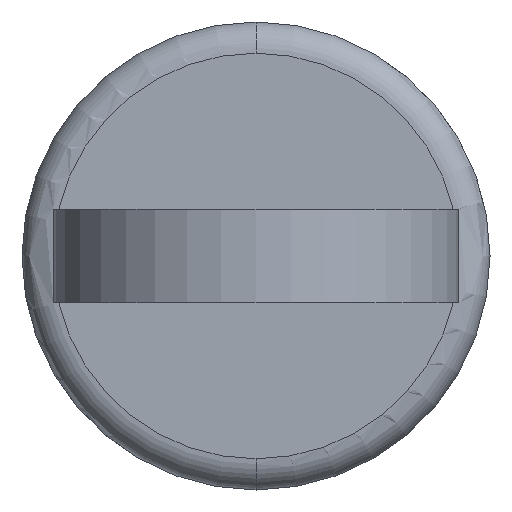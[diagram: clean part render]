
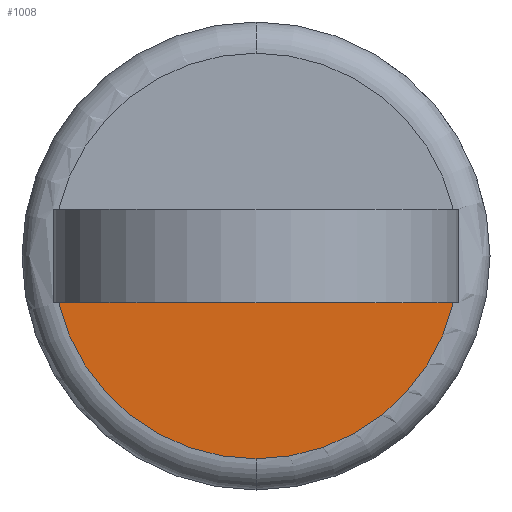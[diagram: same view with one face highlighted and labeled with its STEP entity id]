
A CAD part, front view. The second image highlights one B-rep face of the part: STEP entity #1008.
In plain terms, the highlighted planar face has unit normal (0, -1, 0).
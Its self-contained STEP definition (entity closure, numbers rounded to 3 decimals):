
#15 = VERTEX_POINT ( 'NONE', #1048 ) ;
#52 = EDGE_CURVE ( 'NONE', #15, #835, #781, .T. ) ;
#120 = AXIS2_PLACEMENT_3D ( 'NONE', #888, #677, #392 ) ;
#126 = CARTESIAN_POINT ( 'NONE',  ( 6.325, 11., -1.5 ) ) ;
#143 = ORIENTED_EDGE ( 'NONE', *, *, #52, .T. ) ;
#158 = DIRECTION ( 'NONE',  ( 0., 1., 0. ) ) ;
#242 = CIRCLE ( 'NONE', #1085, 6.5 ) ;
#243 = DIRECTION ( 'NONE',  ( 0., 0., 1. ) ) ;
#248 = ORIENTED_EDGE ( 'NONE', *, *, #257, .T. ) ;
#251 = DIRECTION ( 'NONE',  ( -1., 0., 0. ) ) ;
#257 = EDGE_CURVE ( 'NONE', #646, #15, #242, .T. ) ;
#334 = DIRECTION ( 'NONE',  ( 0., -1., 0. ) ) ;
#356 = CARTESIAN_POINT ( 'NONE',  ( -6.5, 11., -1.5 ) ) ;
#392 = DIRECTION ( 'NONE',  ( 0., 0., 1. ) ) ;
#508 = CARTESIAN_POINT ( 'NONE',  ( 0., 11., 0. ) ) ;
#539 = VECTOR ( 'NONE', #251, 1000. ) ;
#595 = DIRECTION ( 'NONE',  ( 0., 0., 1. ) ) ;
#646 = VERTEX_POINT ( 'NONE', #1121 ) ;
#656 = LINE ( 'NONE', #356, #539 ) ;
#677 = DIRECTION ( 'NONE',  ( 0., -1., 0. ) ) ;
#693 = EDGE_LOOP ( 'NONE', ( #1059, #248, #143 ) ) ;
#696 = CARTESIAN_POINT ( 'NONE',  ( 0., 11., 0. ) ) ;
#781 = CIRCLE ( 'NONE', #120, 6.5 ) ;
#798 = FACE_OUTER_BOUND ( 'NONE', #693, .T. ) ;
#835 = VERTEX_POINT ( 'NONE', #126 ) ;
#888 = CARTESIAN_POINT ( 'NONE',  ( 0., 11., 0. ) ) ;
#1008 = ADVANCED_FACE ( 'NONE', ( #798 ), #1175, .F. ) ;
#1048 = CARTESIAN_POINT ( 'NONE',  ( 0., 11., -6.5 ) ) ;
#1059 = ORIENTED_EDGE ( 'NONE', *, *, #1137, .T. ) ;
#1085 = AXIS2_PLACEMENT_3D ( 'NONE', #508, #334, #595 ) ;
#1110 = AXIS2_PLACEMENT_3D ( 'NONE', #696, #158, #243 ) ;
#1121 = CARTESIAN_POINT ( 'NONE',  ( -6.325, 11., -1.5 ) ) ;
#1137 = EDGE_CURVE ( 'NONE', #835, #646, #656, .T. ) ;
#1175 = PLANE ( 'NONE',  #1110 ) ;
